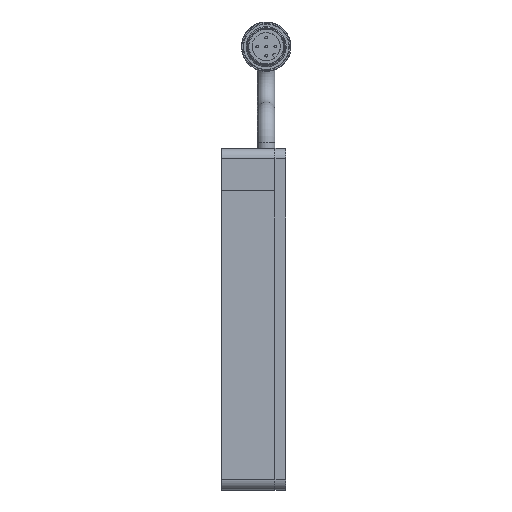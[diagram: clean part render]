
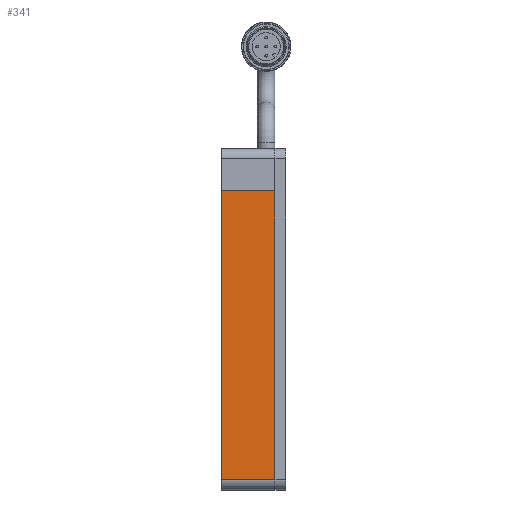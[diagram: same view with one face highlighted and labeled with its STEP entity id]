
A CAD part, left-side view. The second image highlights one B-rep face of the part: STEP entity #341.
In plain terms, the highlighted planar face has unit normal (-1, 0, 0) as drawn and (0, 0, -1) by its records, which use the part's own axes.
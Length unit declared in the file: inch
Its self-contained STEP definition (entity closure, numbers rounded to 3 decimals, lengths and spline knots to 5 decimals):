
#341 = ADVANCED_FACE ( 'NONE', ( #629 ), #11119, .F. ) ;
#626 = CARTESIAN_POINT ( 'NONE',  ( 1.875, -0.3125, -0.25 ) ) ;
#629 = FACE_OUTER_BOUND ( 'NONE', #7925, .T. ) ;
#766 = CARTESIAN_POINT ( 'NONE',  ( -2., -0.3125, -0.25 ) ) ;
#1602 = DIRECTION ( 'NONE',  ( -1., 0., 0. ) ) ;
#1674 = CARTESIAN_POINT ( 'NONE',  ( -2., 0.3125, -0.25 ) ) ;
#2000 = CARTESIAN_POINT ( 'NONE',  ( -1.5, -0.3125, -0.25 ) ) ;
#2213 = EDGE_CURVE ( 'NONE', #13008, #4194, #8164, .T. ) ;
#2365 = LINE ( 'NONE', #8722, #6700 ) ;
#2725 = VECTOR ( 'NONE', #1602, 39.37008 ) ;
#2871 = CARTESIAN_POINT ( 'NONE',  ( -1.5, -0.3125, -0.25 ) ) ;
#3503 = LINE ( 'NONE', #10914, #9786 ) ;
#3571 = DIRECTION ( 'NONE',  ( -1., 0., 0. ) ) ;
#3635 = DIRECTION ( 'NONE',  ( 0., 0., 1. ) ) ;
#4194 = VERTEX_POINT ( 'NONE', #2000 ) ;
#4265 = CARTESIAN_POINT ( 'NONE',  ( -1.5, 0.3125, -0.25 ) ) ;
#4563 = VERTEX_POINT ( 'NONE', #4265 ) ;
#5671 = ORIENTED_EDGE ( 'NONE', *, *, #6739, .T. ) ;
#6310 = VECTOR ( 'NONE', #12585, 39.37008 ) ;
#6700 = VECTOR ( 'NONE', #10954, 39.37008 ) ;
#6739 = EDGE_CURVE ( 'NONE', #13423, #13008, #2365, .T. ) ;
#7200 = LINE ( 'NONE', #2871, #6310 ) ;
#7568 = AXIS2_PLACEMENT_3D ( 'NONE', #1674, #3635, #7900 ) ;
#7658 = EDGE_CURVE ( 'NONE', #4194, #4563, #7200, .T. ) ;
#7900 = DIRECTION ( 'NONE',  ( 1., 0., 0. ) ) ;
#7925 = EDGE_LOOP ( 'NONE', ( #8264, #5671, #9322, #12440 ) ) ;
#8164 = LINE ( 'NONE', #766, #2725 ) ;
#8264 = ORIENTED_EDGE ( 'NONE', *, *, #9156, .F. ) ;
#8394 = CARTESIAN_POINT ( 'NONE',  ( 1.875, 0.3125, -0.25 ) ) ;
#8722 = CARTESIAN_POINT ( 'NONE',  ( 1.875, 0.3125, -0.25 ) ) ;
#9156 = EDGE_CURVE ( 'NONE', #13423, #4563, #3503, .T. ) ;
#9322 = ORIENTED_EDGE ( 'NONE', *, *, #2213, .T. ) ;
#9786 = VECTOR ( 'NONE', #3571, 39.37008 ) ;
#10914 = CARTESIAN_POINT ( 'NONE',  ( -2., 0.3125, -0.25 ) ) ;
#10954 = DIRECTION ( 'NONE',  ( 0., -1., 0. ) ) ;
#11119 = PLANE ( 'NONE',  #7568 ) ;
#12440 = ORIENTED_EDGE ( 'NONE', *, *, #7658, .T. ) ;
#12585 = DIRECTION ( 'NONE',  ( 0., 1., 0. ) ) ;
#13008 = VERTEX_POINT ( 'NONE', #626 ) ;
#13423 = VERTEX_POINT ( 'NONE', #8394 ) ;
